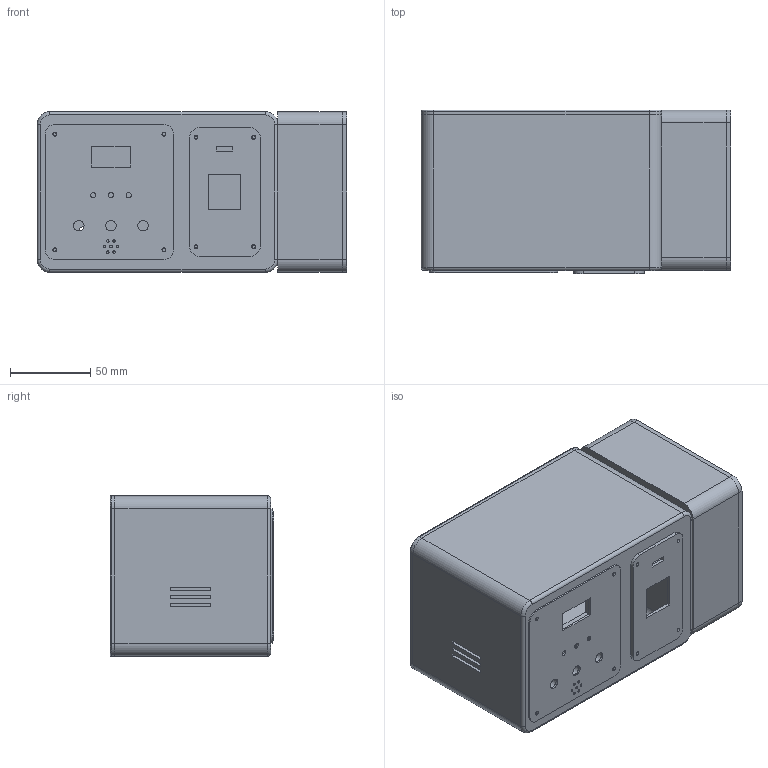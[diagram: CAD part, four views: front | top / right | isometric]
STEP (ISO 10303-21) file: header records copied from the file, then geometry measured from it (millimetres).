
FILE_DESCRIPTION(('Open CASCADE Model'),'2;1');
FILE_NAME('Open CASCADE Shape Model','2026-10-07T22:00:04',('Author'),( 'Open CASCADE'),'Open CASCADE STEP processor 7.9','Open CASCADE 7.9' ,'Unknown');
FILE_SCHEMA(('AUTOMOTIVE_DESIGN { 1 0 10303 214 1 1 1 1 }'));
Length unit declared in the file: millimetre
Products named in the file (8): rectangular_fingerprint_terminal_revision_B; main_body; rear_cover; control_panel; battery_pod; battery_cover; battery_cover_insert; sensor_adapter_r307
Assembly tree (7 placements, depth 2):
  rectangular_fingerprint_terminal_revision_B
    main_body
    rear_cover
    control_panel
    battery_pod
    battery_cover
    battery_cover_insert
    sensor_adapter_r307
Bounding box: 193 x 102 x 100 mm (x, y, z)
Volume: 357678.8 mm3; surface area: 257068.4 mm2
Topology: 7 solids, 7 shells, 258 faces, 671 edges, 442 vertices
Faces by surface type: plane 129, cylinder 121, torus 8
Full cylindrical faces by diameter (mm): 1.6 x14, 2 x8, 2.4 x8, 2.6 x10, 3.2 x6, 3.4 x10, 6.5 x6, 8 x3
Entity records: 17194 total; most frequent: CARTESIAN_POINT 3593, DIRECTION 2443, ORIENTED_EDGE 1342, PCURVE 1342, DEFINITIONAL_REPRESENTATION 1342, LINE 1289, VECTOR 1289, EDGE_CURVE 671
